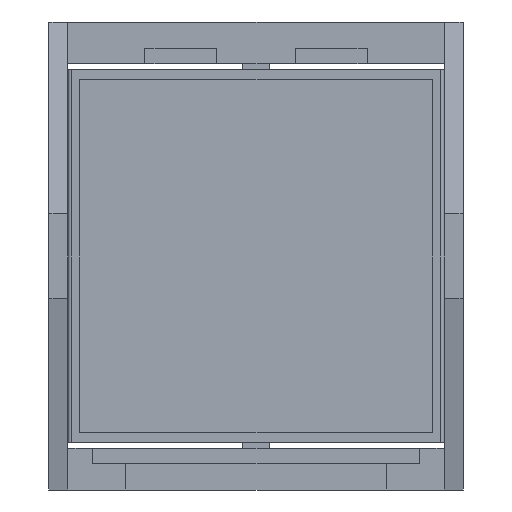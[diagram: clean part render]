
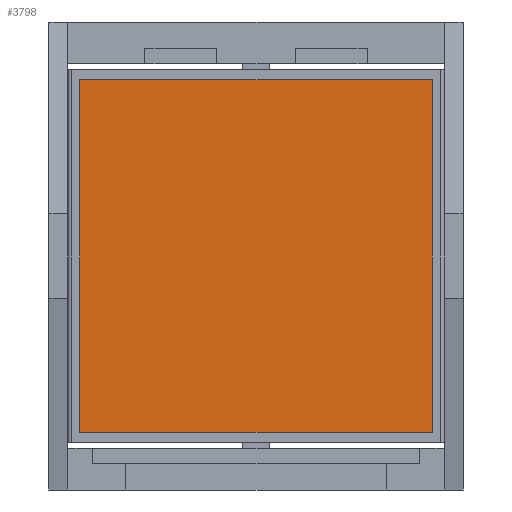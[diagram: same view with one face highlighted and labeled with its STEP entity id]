
A CAD part, front view. The second image highlights one B-rep face of the part: STEP entity #3798.
In plain terms, the highlighted planar face has unit normal (0, -1, 0).
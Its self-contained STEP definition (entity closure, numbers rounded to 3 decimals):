
#558 = EDGE_CURVE ( 'NONE', #4142, #1633, #6884, .T. ) ;
#673 = DIRECTION ( 'NONE',  ( 0., 0., 1. ) ) ;
#903 = ORIENTED_EDGE ( 'NONE', *, *, #4776, .F. ) ;
#1051 = VERTEX_POINT ( 'NONE', #6247 ) ;
#1527 = DIRECTION ( 'NONE',  ( 1., 0., 0. ) ) ;
#1558 = DIRECTION ( 'NONE',  ( 0., 0., -1. ) ) ;
#1633 = VERTEX_POINT ( 'NONE', #4079 ) ;
#1701 = VECTOR ( 'NONE', #1558, 1000. ) ;
#1949 = VECTOR ( 'NONE', #5622, 1000. ) ;
#2043 = VECTOR ( 'NONE', #1527, 1000. ) ;
#2141 = LINE ( 'NONE', #4620, #2043 ) ;
#2262 = DIRECTION ( 'NONE',  ( 0., 1., 0. ) ) ;
#2853 = VECTOR ( 'NONE', #673, 1000. ) ;
#3355 = FACE_OUTER_BOUND ( 'NONE', #5539, .T. ) ;
#3798 = ADVANCED_FACE ( 'NONE', ( #3355 ), #4652, .F. ) ;
#3981 = ORIENTED_EDGE ( 'NONE', *, *, #5817, .F. ) ;
#4079 = CARTESIAN_POINT ( 'NONE',  ( -16.942, -2.335, 16.835 ) ) ;
#4119 = DIRECTION ( 'NONE',  ( 0., 0., 1. ) ) ;
#4142 = VERTEX_POINT ( 'NONE', #8020 ) ;
#4245 = AXIS2_PLACEMENT_3D ( 'NONE', #7240, #2262, #4119 ) ;
#4408 = CARTESIAN_POINT ( 'NONE',  ( -16.942, -2.335, -10.165 ) ) ;
#4620 = CARTESIAN_POINT ( 'NONE',  ( -16.942, -2.335, 16.835 ) ) ;
#4652 = PLANE ( 'NONE',  #4245 ) ;
#4776 = EDGE_CURVE ( 'NONE', #1633, #1051, #2141, .T. ) ;
#5503 = EDGE_CURVE ( 'NONE', #1051, #6990, #5978, .T. ) ;
#5539 = EDGE_LOOP ( 'NONE', ( #6460, #3981, #5794, #903 ) ) ;
#5622 = DIRECTION ( 'NONE',  ( -1., 0., 0. ) ) ;
#5794 = ORIENTED_EDGE ( 'NONE', *, *, #5503, .F. ) ;
#5817 = EDGE_CURVE ( 'NONE', #6990, #4142, #6271, .T. ) ;
#5837 = CARTESIAN_POINT ( 'NONE',  ( 10.058, -2.335, -10.165 ) ) ;
#5978 = LINE ( 'NONE', #7150, #1701 ) ;
#6247 = CARTESIAN_POINT ( 'NONE',  ( 10.058, -2.335, 16.835 ) ) ;
#6248 = CARTESIAN_POINT ( 'NONE',  ( -16.942, -2.335, -10.165 ) ) ;
#6271 = LINE ( 'NONE', #4408, #1949 ) ;
#6460 = ORIENTED_EDGE ( 'NONE', *, *, #558, .F. ) ;
#6884 = LINE ( 'NONE', #6248, #2853 ) ;
#6990 = VERTEX_POINT ( 'NONE', #5837 ) ;
#7150 = CARTESIAN_POINT ( 'NONE',  ( 10.058, -2.335, -10.165 ) ) ;
#7240 = CARTESIAN_POINT ( 'NONE',  ( -16.942, -2.335, 16.835 ) ) ;
#8020 = CARTESIAN_POINT ( 'NONE',  ( -16.942, -2.335, -10.165 ) ) ;
